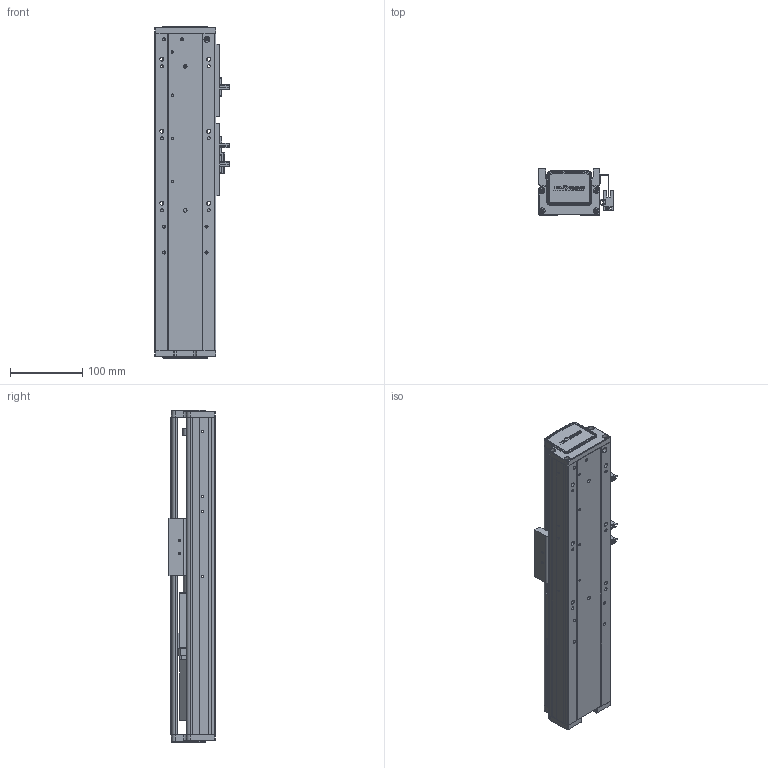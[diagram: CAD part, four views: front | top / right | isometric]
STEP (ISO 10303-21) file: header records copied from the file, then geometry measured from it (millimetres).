
FILE_DESCRIPTION (( 'STEP AP203' ), '1' );
FILE_NAME ('RY80-L1620-300-IK.SLDASM_100.step', '2021-02-22T05:28:31', ( '盈信电脑' ), ( '东莞市道滘镇水果街19号' ), 'SwSTEP 2.0', 'SolidWorks 2012', '' );
FILE_SCHEMA (( 'CONFIG_CONTROL_DESIGN' ));
Products named in the file (14): RY80-L1620-300-IK.SLDASM_100; 滅袉蝶18-24; RY80囀离ヶ啣; 侂狟100W; RY80俋离覜茼え; RY80囀离萇儂啣; RY80綴裔啣; 覜茼ん672; 滅袉蝶18-10; 672嫖萇羲壽假蚾釱; RY80臏賑輸; RY80萇儂傷盓傅釱; RY80-300倰第菁釱-IK_100; RY80-300倰第奻裔啣-IK_100
Assembly tree (16 placements, depth 2):
  RY80-L1620-300-IK.SLDASM_100
    RY80-300倰第菁釱-IK_100
    RY80臏賑輸
    RY80-300倰第奻裔啣-IK_100
    RY80萇儂傷盓傅釱
    RY80綴裔啣
    滅袉蝶18-10
    672嫖萇羲壽假蚾釱  x2
    覜茼ん672  x3
    RY80俋离覜茼え
    侂狟100W
    RY80囀离萇儂啣
    RY80囀离ヶ啣
    滅袉蝶18-24
Bounding box: 103.7 x 65 x 461 mm (x, y, z)
Volume: 1017252.4 mm3; surface area: 401388.3 mm2
Topology: 16 solids, 16 shells, 1929 faces, 5312 edges, 3463 vertices
Faces by surface type: plane 1242, cylinder 553, cone 90, bspline 44
Entity records: 59205 total; most frequent: CARTESIAN_POINT 13965, ORIENTED_EDGE 9344, DIRECTION 8571, EDGE_CURVE 4672, LINE 3301, VECTOR 3301, VERTEX_POINT 3079, AXIS2_PLACEMENT_3D 2635
